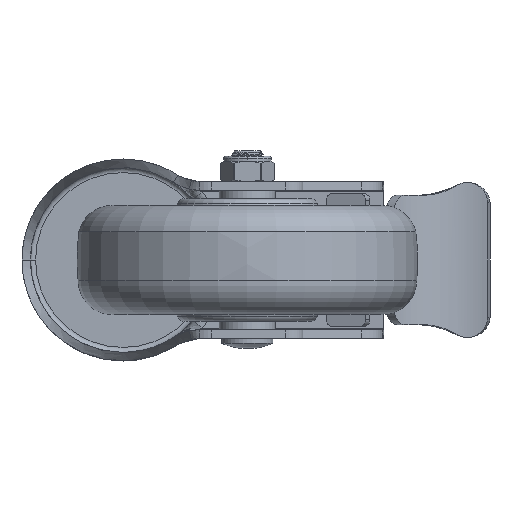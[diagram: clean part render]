
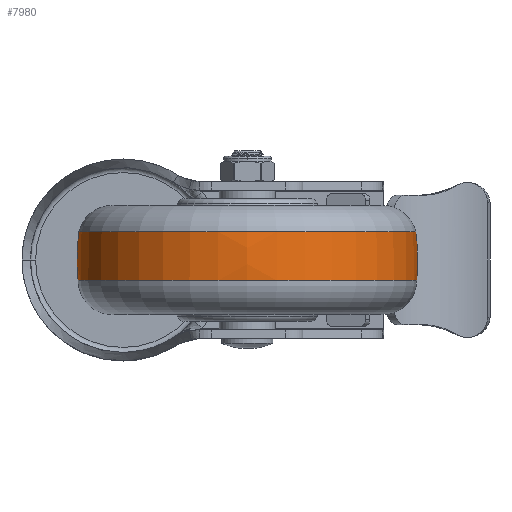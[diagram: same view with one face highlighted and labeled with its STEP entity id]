
A CAD part, front view. The second image highlights one B-rep face of the part: STEP entity #7980.
In plain terms, the highlighted free-form (B-spline) face has degree [3, 3] with [7, 4] control points.
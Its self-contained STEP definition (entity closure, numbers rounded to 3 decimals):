
#7365=CARTESIAN_POINT('',(-6.012,0.,0.));
#7366=DIRECTION('',(-1.,0.,0.));
#7367=DIRECTION('',(0.,1.,0.));
#7368=AXIS2_PLACEMENT_3D('',#7365,#7366,#7367);
#7380=CARTESIAN_POINT('',(0.,-11.437,0.));
#7381=DIRECTION('',(0.,0.,1.));
#7382=DIRECTION('',(0.135,0.991,0.));
#7383=AXIS2_PLACEMENT_3D('',#7380,#7381,#7382);
#7385=CARTESIAN_POINT('',(0.,11.437,0.));
#7386=DIRECTION('',(0.,0.,-1.));
#7387=DIRECTION('',(0.135,-0.991,0.));
#7388=AXIS2_PLACEMENT_3D('',#7385,#7386,#7387);
#7390=CARTESIAN_POINT('',(8.303,0.,0.));
#7391=DIRECTION('',(-1.,0.,0.));
#7392=DIRECTION('',(0.,1.,0.));
#7393=AXIS2_PLACEMENT_3D('',#7390,#7391,#7392);
#7605=CARTESIAN_POINT('',(-6.012,49.697,0.));
#7607=VERTEX_POINT('',#7605);
#7609=CARTESIAN_POINT('',(-6.012,-49.697,
0.));
#7611=VERTEX_POINT('',#7609);
#7638=CARTESIAN_POINT('',(8.303,49.428,0.));
#7640=VERTEX_POINT('',#7638);
#7642=CARTESIAN_POINT('',(8.303,-49.428,
0.));
#7644=VERTEX_POINT('',#7642);
#7944=CARTESIAN_POINT('',(-6.298,-49.57,
3.119));
#7945=CARTESIAN_POINT('',(-1.337,-50.08,
3.151));
#7946=CARTESIAN_POINT('',(3.649,-49.987,3.145));
#7947=CARTESIAN_POINT('',(8.587,-49.291,3.101));
#7948=CARTESIAN_POINT('',(-6.298,-51.489,
-27.387));
#7949=CARTESIAN_POINT('',(-1.337,-52.019,
-27.668));
#7950=CARTESIAN_POINT('',(3.649,-51.922,
-27.617));
#7951=CARTESIAN_POINT('',(8.587,-51.199,
-27.232));
#7952=CARTESIAN_POINT('',(-6.298,-30.566,
-49.668));
#7953=CARTESIAN_POINT('',(-1.337,-30.88,
-50.179));
#7954=CARTESIAN_POINT('',(3.649,-30.823,
-50.085));
#7955=CARTESIAN_POINT('',(8.587,-30.393,
-49.388));
#7956=CARTESIAN_POINT('',(-6.298,0.,-49.668));
#7957=CARTESIAN_POINT('',(-1.337,0.,-50.179));
#7958=CARTESIAN_POINT('',(3.649,0.,
-50.085));
#7959=CARTESIAN_POINT('',(8.587,0.,-49.388));
#7960=CARTESIAN_POINT('',(-6.298,30.566,
-49.668));
#7961=CARTESIAN_POINT('',(-1.337,30.88,
-50.179));
#7962=CARTESIAN_POINT('',(3.649,30.823,-50.085));
#7963=CARTESIAN_POINT('',(8.587,30.393,-49.388));
#7964=CARTESIAN_POINT('',(-6.298,51.489,
-27.387));
#7965=CARTESIAN_POINT('',(-1.337,52.019,
-27.668));
#7966=CARTESIAN_POINT('',(3.649,51.922,-27.617));
#7967=CARTESIAN_POINT('',(8.587,51.199,-27.232));
#7968=CARTESIAN_POINT('',(-6.298,49.57,3.119));
#7969=CARTESIAN_POINT('',(-1.337,50.08,3.151));
#7970=CARTESIAN_POINT('',(3.649,49.987,3.145));
#7971=CARTESIAN_POINT('',(8.587,49.291,3.101));
#7972=(BOUNDED_SURFACE()B_SPLINE_SURFACE(3,3,((#7944,#7945,#7946,#7947),(#7948,
#7949,#7950,#7951),(#7952,#7953,#7954,#7955),(#7956,#7957,#7958,#7959),(#7960,
#7961,#7962,#7963),(#7964,#7965,#7966,#7967),(#7968,#7969,#7970,#7971)),
.UNSPECIFIED.,.F.,.F.,.F.)B_SPLINE_SURFACE_WITH_KNOTS((4,3,4),(4,4),(0.,1.,
2.),(0.,1.),.UNSPECIFIED.)GEOMETRIC_REPRESENTATION_ITEM()RATIONAL_B_SPLINE_SURFACE(((1.192,1.186,1.186,1.192),(
0.941,0.936,0.936,0.941),(
0.941,0.936,0.936,0.941),(
1.192,1.186,1.186,1.192),(
0.941,0.936,0.936,0.941),(
0.941,0.936,0.936,0.941),(
1.192,1.186,1.186,1.192)))REPRESENTATION_ITEM('')SURFACE());
#7973=ORIENTED_EDGE('',*,*,#7934,.T.);
#7974=ORIENTED_EDGE('',*,*,#7887,.T.);
#7975=ORIENTED_EDGE('',*,*,#7938,.F.);
#7977=ORIENTED_EDGE('',*,*,#7976,.F.);
#7978=EDGE_LOOP('',(#7973,#7974,#7975,#7977));
#7979=FACE_OUTER_BOUND('',#7978,.F.);
#7369=CIRCLE('',#7368,49.697);
#7384=CIRCLE('',#7383,61.429);
#7389=CIRCLE('',#7388,61.429);
#7394=CIRCLE('',#7393,49.428);
#7887=EDGE_CURVE('',#7607,#7611,#7369,.T.);
#7934=EDGE_CURVE('',#7640,#7607,#7384,.T.);
#7938=EDGE_CURVE('',#7644,#7611,#7389,.T.);
#7976=EDGE_CURVE('',#7640,#7644,#7394,.T.);
#7980=ADVANCED_FACE('',(#7979),#7972,.T.);
